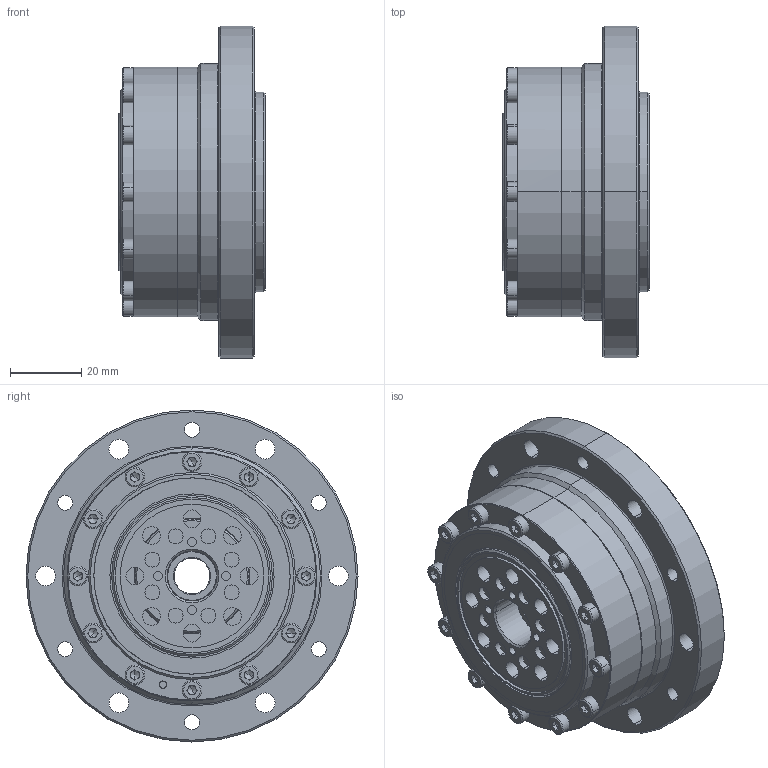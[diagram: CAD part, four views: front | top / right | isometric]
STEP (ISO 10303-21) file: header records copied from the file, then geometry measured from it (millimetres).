
FILE_DESCRIPTION (( 'STEP AP214' ), '1' );
FILE_NAME ('CSF-20-xxx-II.STEP', '2021-07-17T01:24:19', ( 'PC' ), ( 'Microsoft' ), 'SwSTEP 2.0', 'SolidWorks 2016', '' );
FILE_SCHEMA (( 'AUTOMOTIVE_DESIGN' ));
Length unit declared in the file: millimetre
Products named in the file (17): 20-柔轮定位法兰; 3x10种隊; 20-柔轮; 20-蝠脫粣創; hexagon socket head cap screws gb_GB_FASTENER_SCREWS_HSHCS M2.5X8-C; 20-蝠脫粣創黑芛; 蝠脫粣創-蚐猾-CSF-20; 蝠脫粣創-幗赽-朴3; 20-交叉轴承内圈; 20-交叉轴承外圈; CSF-20-xxx-II; 20-疏楷汜ん; 20柔性轴承; 芧謫-SF-20; hexagon socket head cap screws gb_GB_FASTENER_SCREWS_HSHCS M3X20-C; 20-詩謫; hexagon socket head cap screws gb_GB_FASTENER_SCREWS_HSHCS M5X16-C
Assembly tree (86 placements, depth 3):
  CSF-20-xxx-II
    20-蝠脫粣創
      20-交叉轴承外圈
      20-交叉轴承内圈
      蝠脫粣創-幗赽-朴3  x50
      蝠脫粣創-蚐猾-CSF-20
      20-蝠脫粣創黑芛
      hexagon socket head cap screws gb_GB_FASTENER_SCREWS_HSHCS M2.5X8-C
    20-柔轮
    3x10种隊  x4
    20-柔轮定位法兰
    hexagon socket head cap screws gb_GB_FASTENER_SCREWS_HSHCS M5X16-C  x8
    20-詩謫
    hexagon socket head cap screws gb_GB_FASTENER_SCREWS_HSHCS M3X20-C  x12
    20-疏楷汜ん
      芧謫-SF-20
      20柔性轴承
Bounding box: 41 x 93 x 93 mm (x, y, z)
Volume: 126111.2 mm3; surface area: 84297.1 mm2
Topology: 84 solids, 84 shells, 1442 faces, 3095 edges, 1842 vertices
Faces by surface type: plane 487, cylinder 465, cone 418, torus 66, bspline 6
Entity records: 21313 total; most frequent: CARTESIAN_POINT 5022, DIRECTION 3392, ORIENTED_EDGE 2658, AXIS2_PLACEMENT_3D 1431, EDGE_CURVE 1329, VERTEX_POINT 832, EDGE_LOOP 783, CIRCLE 770
